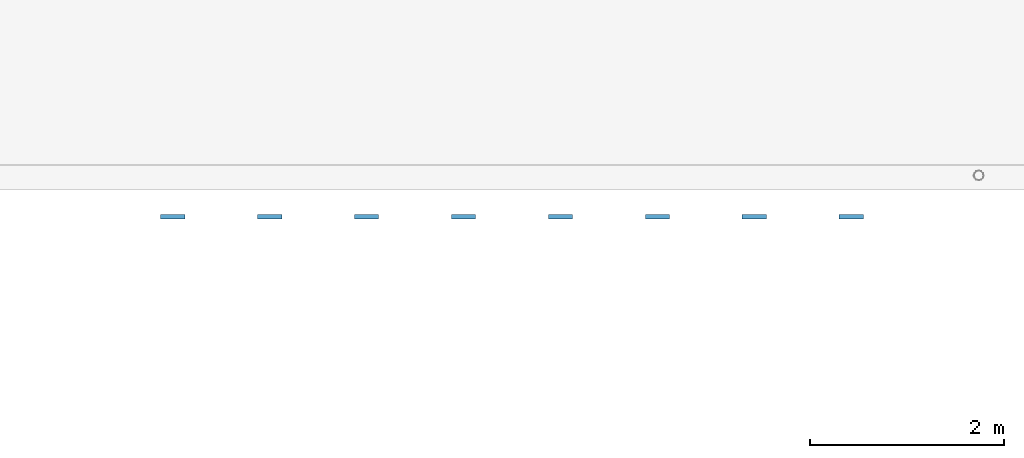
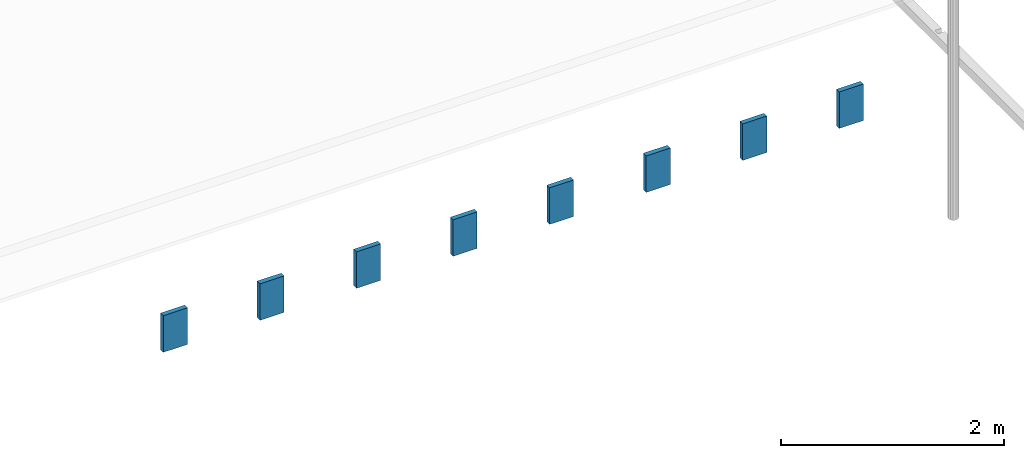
# One storey, part 6 of 25: 8 beams.
"""IFC2X3 building model written with IfcOpenShell, lengths in millimetres."""

from ifc_helpers import new_model, entity, si_unit, converted_unit, derived_unit, money_unit, direction, frame, origin_with_axes, place, context, subcontext, project, spatial, faceted_brep, material, type_object, element, save


model = new_model("IFC2X3")

# Units and contexts
model_context = context("Model", 3, precision=0.01, world=origin_with_axes(), true_north=direction((0.0, 1.0)))
body_context = subcontext(model_context, "Body", "Model", "MODEL_VIEW")
ifc_project = project(units=[si_unit("LENGTHUNIT", "METRE", prefix="MILLI"), si_unit("AREAUNIT", "SQUARE_METRE"), si_unit("VOLUMEUNIT", "CUBIC_METRE"), converted_unit("PLANEANGLEUNIT", "DEGREE", entity("IfcPlaneAngleMeasure", 0.0174532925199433), si_unit("PLANEANGLEUNIT", "RADIAN"), dimensions=[0, 0, 0, 0, 0, 0, 0]), money_unit("EUR"), converted_unit("TIMEUNIT", "Year", entity("IfcTimeMeasure", 31557600.0), si_unit("TIMEUNIT", "SECOND"), dimensions=[0, 0, 1, 0, 0, 0, 0]), si_unit("MASSUNIT", "GRAM", prefix="KILO"), si_unit("THERMODYNAMICTEMPERATUREUNIT", "DEGREE_CELSIUS"), si_unit("LUMINOUSINTENSITYUNIT", "LUMEN"), si_unit("ENERGYUNIT", "JOULE", prefix="MEGA"), derived_unit("THERMALCONDUCTANCEUNIT", [(si_unit("POWERUNIT", "WATT"), 1), (si_unit("LENGTHUNIT", "METRE"), -1), (si_unit("THERMODYNAMICTEMPERATUREUNIT", "KELVIN"), -1)]), derived_unit("SPECIFICHEATCAPACITYUNIT", [(si_unit("ENERGYUNIT", "JOULE"), 1), (si_unit("MASSUNIT", "GRAM", prefix="KILO"), -1), (si_unit("THERMODYNAMICTEMPERATUREUNIT", "KELVIN"), -1)]), derived_unit("MASSDENSITYUNIT", [(si_unit("MASSUNIT", "GRAM", prefix="KILO"), 1), (si_unit("VOLUMEUNIT", "CUBIC_METRE"), -1)])], contexts=[model_context])

# Site, building, storey
site_placement = place(None, origin_with_axes())
site = spatial("IfcSite", under=ifc_project, at=site_placement, Name="<site naam>", CompositionType="ELEMENT")
building_placement = place(site_placement, origin_with_axes())
building = spatial("IfcBuilding", under=site, at=building_placement, Name="<Naam gebouw>", CompositionType="ELEMENT")
storey_placement = place(building_placement, frame((0.0, 0.0, 9563.0), z_axis=(0.0, 0.0, 1.0), x_axis=(1.0, 0.0, 0.0)))
storey = spatial("IfcBuildingStorey", under=building, at=storey_placement, Name="03 3e tussenverdieping", CompositionType="ELEMENT", Elevation=9563.0)

# Beams
ifc_material = material(Name="ALG - BUITENAFWERKING")
beam_type = type_object("IfcBeamType", Name="ALG - BUITENAFWERKING 50 x 400", PredefinedType="BEAM")
for number, where, z_axis, x_axis, name in (
    (1, (60784.80345890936, -340.0700793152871, 2149.5), (0.0, 0.0, 1.0), (0.0, -1.0, 0.0), "41_Balk_ALG"),
    (2, (61784.80345890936, -340.0700793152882, 2149.5), (0.0, 0.0, 1.0), (0.0, -1.0, 0.0), "41_Balk_ALG"),
    (3, (62784.80345890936, -340.0700793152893, 2149.5), (0.0, 0.0, 1.0), (0.0, -1.0, 0.0), "41_Balk_ALG"),
):
    element("IfcBeam", number, at=place(storey_placement, frame(where, z_axis=z_axis, x_axis=x_axis)), inside=storey, type_object=beam_type, material=ifc_material, Name=name, ObjectType="BEAM", context=body_context, shape_type="Brep", body=[
        faceted_brep([(0.0, 0.0, 0.0), (0.0, 250.0, 0.0), (-49.99999999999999, 250.0, 0.0), (-49.99999999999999, 0.0, 0.0), (0.0, 0.0, -400.0000000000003), (0.0, 250.0, -400.0000000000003), (-49.99999999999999, 250.0, -400.0000000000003), (-49.99999999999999, 0.0, -400.0000000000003)], [[[0, 1, 2, 3]], [[4, 5, 1, 0]], [[2, 1, 5, 6]], [[3, 2, 6, 7]], [[4, 0, 3, 7]], [[7, 6, 5, 4]]]),
    ])
beam_placement = place(storey_placement, frame((63784.80345890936, -340.0700793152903, 2149.5), z_axis=(0.0, 0.0, 1.0), x_axis=(0.0, -1.0, 0.0)))
element("IfcBeam", 4, at=beam_placement, inside=storey, type_object=beam_type, material=ifc_material, Name="41_Balk_ALG", ObjectType="BEAM", context=body_context, shape_type="Brep", body=[
    faceted_brep([(0.0, 0.0, 0.0), (0.0, 249.9999999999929, 0.0), (-49.99999999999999, 249.9999999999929, 0.0), (-49.99999999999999, 0.0, 0.0), (0.0, 0.0, -400.0000000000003), (0.0, 249.9999999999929, -400.0000000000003), (-49.99999999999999, 249.9999999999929, -400.0000000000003), (-49.99999999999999, 0.0, -400.0000000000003)], [[[0, 1, 2, 3]], [[4, 5, 1, 0]], [[2, 1, 5, 6]], [[3, 2, 6, 7]], [[4, 0, 3, 7]], [[7, 6, 5, 4]]]),
])
for number, where, z_axis, x_axis, name in (
    (5, (64784.80345890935, -340.0700793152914, 2149.5), (0.0, 0.0, 1.0), (0.0, -1.0, 0.0), "41_Balk_ALG"),
    (6, (65784.80345890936, -340.0700793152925, 2149.5), (0.0, 0.0, 1.0), (0.0, -1.0, 0.0), "41_Balk_ALG"),
    (7, (67784.80345890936, -340.0700793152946, 2149.5), (0.0, 0.0, 1.0), (0.0, -1.0, 0.0), "41_Balk_ALG"),
    (8, (66784.80345890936, -340.0700793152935, 2149.5), (0.0, 0.0, 1.0), (0.0, -1.0, 0.0), "41_Balk_ALG"),
):
    element("IfcBeam", number, at=place(storey_placement, frame(where, z_axis=z_axis, x_axis=x_axis)), inside=storey, type_object=beam_type, material=ifc_material, Name=name, ObjectType="BEAM", context=body_context, shape_type="Brep", body=[
        faceted_brep([(0.0, 0.0, 0.0), (0.0, 250.0, 0.0), (-49.99999999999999, 250.0, 0.0), (-49.99999999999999, 0.0, 0.0), (0.0, 0.0, -400.0000000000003), (0.0, 250.0, -400.0000000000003), (-49.99999999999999, 250.0, -400.0000000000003), (-49.99999999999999, 0.0, -400.0000000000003)], [[[0, 1, 2, 3]], [[4, 5, 1, 0]], [[2, 1, 5, 6]], [[3, 2, 6, 7]], [[4, 0, 3, 7]], [[7, 6, 5, 4]]]),
    ])

save(model, "model.ifc")
